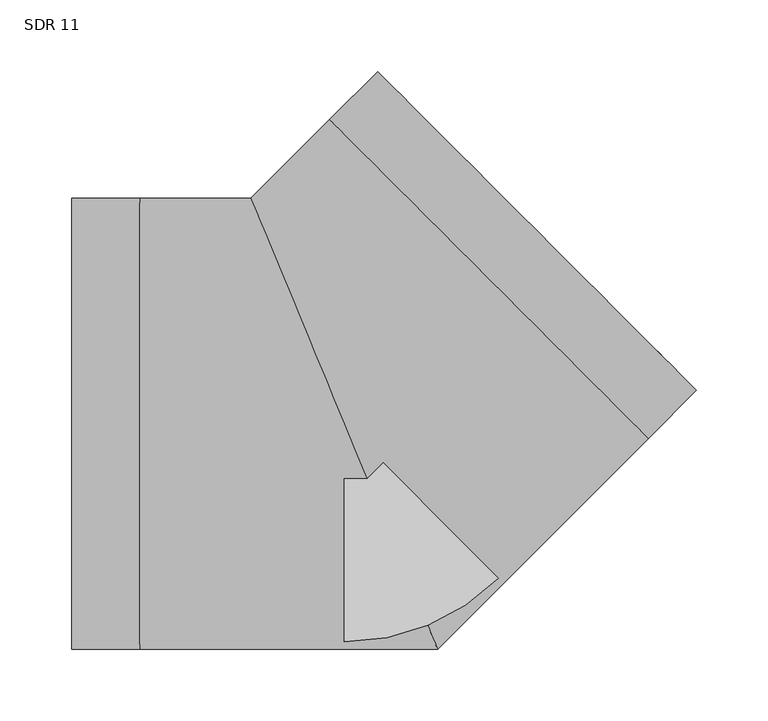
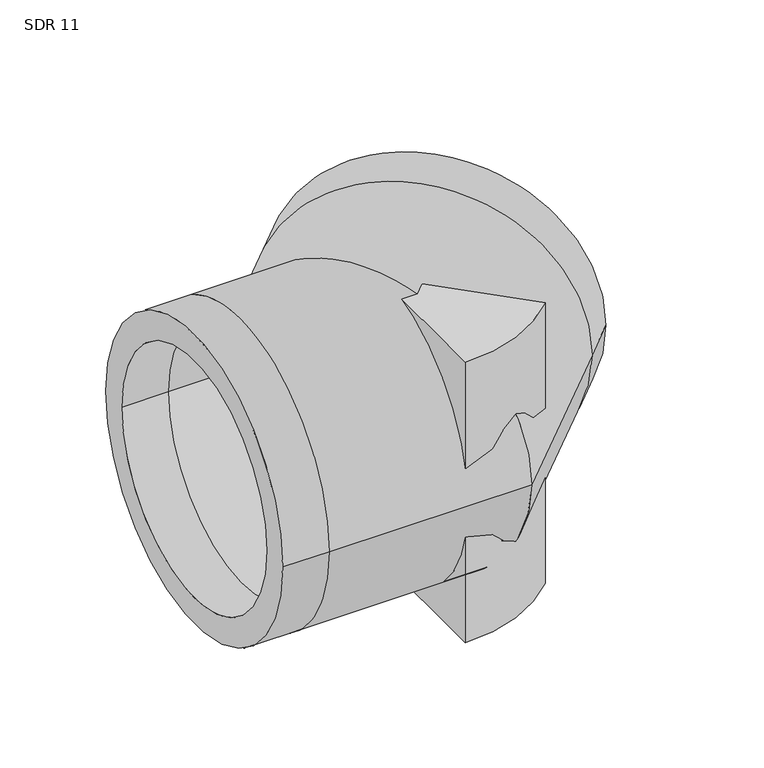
"""IFC4 building model written with IfcOpenShell, lengths in millimetres: pipe fitting geometry, Aquatherm - Elbow Blue BW Segmented : SDR 11."""

from ifc_helpers import new_model, si_unit, point, frame, origin, origin_with_axes, origin_2d, place, context, project, spatial, polyline, circle_curve, ellipse_curve, trimmed, segment, composite_curve, outline, extrude, source, transform, mapped, element, save
from ifc_brep_helpers import plane_surface, cylinder_surface, revolved_surface, advanced_brep


def sdr_11_e0c1b7f1(model_context):
    return source(origin(), model_context, "Body", "SolidModel", [
        extrude(outline(composite_curve([segment(polyline([(0.0, -152.4), (0.0, 0.0), (107.7630735, -107.7630735)]), True, "CONTINUOUS"), segment(trimmed(circle_curve(origin_2d(), 152.4), [point((107.7630735, -107.7630735))], [point((0.0, -152.4))], False, "CARTESIAN"), True, "CONTINUOUS")], self_intersect=False)), frame((0.0, 0.0, -152.4), z_axis=(0.0, 0.0, 1.0), x_axis=(1.0, 0.0, 0.0)), (0.0, 0.0, 1.0), 152.4),
        extrude(outline(composite_curve([segment(trimmed(circle_curve(origin_2d(), 152.4), [point((107.7630735, -107.7630735))], [point((0.0, -152.4))], False, "CARTESIAN"), True, "CONTINUOUS"), segment(polyline([(0.0, -152.4), (0.0, 0.0), (107.7630735, -107.7630735)]), True, "CONTINUOUS")], self_intersect=False)), origin_with_axes(), (0.0, 0.0, 1.0), 152.4),
        advanced_brep(
        [(-190.5, -157.48, 0.0), (-190.5, 157.48, 0.0), (-190.5, -128.8472727, 0.0), (-190.5, 128.8472727, 0.0), (246.0590177, 23.3486659, 0.0), (23.3486659, 246.0590177, 0.0), (225.8126221, 43.5950615, 0.0), (43.5950615, 225.8126221, 0.0), (-142.875, -157.48, 0.0), (-142.875, 157.48, 0.0), (-142.875, -128.8472727, 0.0), (-142.875, 128.8472727, 0.0), (65.2303518, -157.48, 0.0), (-65.2303518, 157.48, 0.0), (53.3702878, -128.8472727, 0.0), (-53.3702878, 128.8472727, 0.0), (212.3830573, -10.3272945, 0.0), (-10.3272945, 212.3830573, 0.0), (192.1366616, 9.9191011, 0.0), (9.9191011, 192.1366616, 0.0)],
        [
            (0, 1, circle_curve(frame((-190.5, 0.0, 0.0), z_axis=(-1.0, 0.0, 0.0), x_axis=(0.0, 1.0, 0.0)), 157.48)),
            (1, 0, circle_curve(frame((-190.5, 0.0, 0.0), z_axis=(-1.0, 0.0, 0.0), x_axis=(0.0, 1.0, 0.0)), 157.48)),
            (2, 3, circle_curve(frame((-190.5, 0.0, 0.0), z_axis=(1.0, 0.0, 0.0), x_axis=(0.0, 1.0, 0.0)), 128.8472727)),
            (3, 2, circle_curve(frame((-190.5, 0.0, 0.0), z_axis=(1.0, 0.0, 0.0), x_axis=(0.0, 1.0, 0.0)), 128.8472727)),
            (4, 5, circle_curve(frame((134.7038418, 134.7038418, 0.0), z_axis=(0.7071067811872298, 0.7071067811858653, 0.0), x_axis=(-0.7071067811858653, 0.7071067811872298, 0.0)), 157.48)),
            (5, 4, circle_curve(frame((134.7038418, 134.7038418, 0.0), z_axis=(0.7071067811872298, 0.7071067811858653, 0.0), x_axis=(-0.7071067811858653, 0.7071067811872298, 0.0)), 157.48)),
            (6, 7, circle_curve(frame((134.7038418, 134.7038418, 0.0), z_axis=(-0.7071067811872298, -0.7071067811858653, 0.0), x_axis=(-0.7071067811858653, 0.7071067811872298, 0.0)), 128.8472727)),
            (7, 6, circle_curve(frame((134.7038418, 134.7038418, 0.0), z_axis=(-0.7071067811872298, -0.7071067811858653, 0.0), x_axis=(-0.7071067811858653, 0.7071067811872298, 0.0)), 128.8472727)),
            (0, 8),
            (8, 9, circle_curve(frame((-142.875, 0.0, 0.0), z_axis=(-1.0, 0.0, 0.0), x_axis=(0.0, 1.0, 0.0)), 157.48)),
            (9, 1),
            (9, 8, circle_curve(frame((-142.875, 0.0, 0.0), z_axis=(-1.0, 0.0, 0.0), x_axis=(0.0, 1.0, 0.0)), 157.48)),
            (2, 10),
            (10, 11, circle_curve(frame((-142.875, 0.0, 0.0), z_axis=(1.0, 0.0, 0.0), x_axis=(0.0, 1.0, 0.0)), 128.8472727)),
            (11, 3),
            (11, 10, circle_curve(frame((-142.875, 0.0, 0.0), z_axis=(1.0, 0.0, 0.0), x_axis=(0.0, 1.0, 0.0)), 128.8472727)),
            (8, 12),
            (12, 13, ellipse_curve(frame((0.0, 0.0, 0.0), z_axis=(-0.9238795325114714, -0.38268343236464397, 0.0), x_axis=(-0.38268343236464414, 0.9238795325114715, 0.0)), 170.4551237, 157.48)),
            (13, 9),
            (13, 12, ellipse_curve(frame((0.0, 0.0, 0.0), z_axis=(-0.9238795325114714, -0.38268343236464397, 0.0), x_axis=(-0.38268343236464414, 0.9238795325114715, 0.0)), 170.4551237, 157.48)),
            (10, 14),
            (14, 15, ellipse_curve(frame((0.0, 0.0, 0.0), z_axis=(0.9238795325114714, 0.38268343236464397, 0.0), x_axis=(0.38268343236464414, -0.9238795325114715, 0.0)), 139.463283, 128.8472727)),
            (15, 11),
            (15, 14, ellipse_curve(frame((0.0, 0.0, 0.0), z_axis=(0.9238795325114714, 0.38268343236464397, 0.0), x_axis=(0.38268343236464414, -0.9238795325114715, 0.0)), 139.463283, 128.8472727)),
            (12, 16),
            (16, 17, circle_curve(frame((101.0278814, 101.0278814, 0.0), z_axis=(-0.7071067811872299, -0.7071067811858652, 0.0), x_axis=(-0.7071067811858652, 0.7071067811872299, 0.0)), 157.48)),
            (17, 13),
            (17, 16, circle_curve(frame((101.0278814, 101.0278814, 0.0), z_axis=(-0.7071067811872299, -0.7071067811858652, 0.0), x_axis=(-0.7071067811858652, 0.7071067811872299, 0.0)), 157.48)),
            (14, 18),
            (18, 19, circle_curve(frame((101.0278814, 101.0278814, 0.0), z_axis=(0.7071067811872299, 0.7071067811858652, 0.0), x_axis=(-0.7071067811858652, 0.7071067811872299, 0.0)), 128.8472727)),
            (19, 15),
            (19, 18, circle_curve(frame((101.0278814, 101.0278814, 0.0), z_axis=(0.7071067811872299, 0.7071067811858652, 0.0), x_axis=(-0.7071067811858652, 0.7071067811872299, 0.0)), 128.8472727)),
            (16, 4),
            (5, 17),
            (18, 6),
            (7, 19),
        ],
        [
            plane_surface(frame((-190.5, 0.0, 0.0), z_axis=(-1.0, 0.0, 0.0), x_axis=(0.0, 0.0, 1.0))),
            plane_surface(frame((134.7038418, 134.7038418, 0.0), z_axis=(0.7071067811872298, 0.7071067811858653, 0.0), x_axis=(0.0, 0.0, 1.0))),
            cylinder_surface(frame((-190.5, 0.0, 0.0), z_axis=(-1.0, 0.0, 0.0), x_axis=(0.0, 1.0, 0.0)), 157.48),
            revolved_surface(polyline([(-142.875, 128.8472727, 0.0), (-190.5, 128.8472727, 0.0)]), (-190.5, 0.0, 0.0), (1.0, 0.0, 0.0)),
            cylinder_surface(frame((-142.875, 0.0, 0.0), z_axis=(-1.0, 0.0, 0.0), x_axis=(0.0, 1.0, 0.0)), 157.48),
            revolved_surface(polyline([(53.370287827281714, 128.8472727, 0.0), (-142.875, 128.8472727, 0.0)]), (-142.875, 0.0, 0.0), (1.0, 0.0, 0.0)),
            cylinder_surface(frame((0.0, 0.0, 0.0), z_axis=(-0.7071067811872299, -0.7071067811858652, 0.0), x_axis=(-0.7071067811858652, 0.7071067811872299, 0.0)), 157.48),
            revolved_surface(polyline([(9.919101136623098, 192.13666166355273, 0.0), (-128.8472727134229, 53.37028781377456, 0.0)]), (0.0, 0.0, 0.0), (0.7071067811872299, 0.7071067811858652, 0.0)),
            cylinder_surface(frame((101.0278814, 101.0278814, 0.0), z_axis=(-0.7071067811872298, -0.7071067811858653, 0.0), x_axis=(-0.7071067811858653, 0.7071067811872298, 0.0)), 157.48),
            revolved_surface(polyline([(43.595061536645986, 225.81262206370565, 0.0), (9.919101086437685, 192.13666161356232, 0.0)]), (101.0278814, 101.0278814, 0.0), (0.7071067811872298, 0.7071067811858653, 0.0)),
        ],
        [
            (0, [[1, 2], [3, 4]]),
            (1, [[5, 6], [7, 8]]),
            (2, [[-1, 9, 10, 11]]),
            (2, [[-2, -11, 12, -9]]),
            (3, [[-3, 13, 14, 15]]),
            (3, [[-4, -15, 16, -13]]),
            (4, [[-10, 17, 18, 19]]),
            (4, [[-12, -19, 20, -17]]),
            (5, [[-14, 21, 22, 23]]),
            (5, [[-16, -23, 24, -21]]),
            (6, [[-18, 25, 26, 27]]),
            (6, [[-20, -27, 28, -25]]),
            (7, [[-22, 29, 30, 31]]),
            (7, [[-24, -31, 32, -29]]),
            (8, [[-26, 33, -6, 34]]),
            (8, [[-28, -34, -5, -33]]),
            (9, [[-30, 35, -8, 36]]),
            (9, [[-32, -36, -7, -35]]),
        ],
    ),
    ])


if __name__ == "__main__":
    model = new_model("IFC4")
    model_context = context("Model", 3, world=origin())
    ifc_project = project(units=[si_unit("LENGTHUNIT", "METRE", prefix="MILLI")], contexts=[model_context])
    site = spatial("IfcSite", under=ifc_project)
    building = spatial("IfcBuilding", under=site)
    placement = place(None, origin())
    sdr_11_shape = sdr_11_e0c1b7f1(model_context)
    element("IfcPipeFitting", 1, ObjectType="Aquatherm - Elbow Blue BW Segmented : SDR 11", at=placement, inside=building, context=model_context, shape_type="MappedRepresentation", body=[
        mapped(sdr_11_shape, transform((0.0, 0.0, 0.0), x_axis=(1.0, 0.0, 0.0), y_axis=(0.0, 1.0, 0.0), z_axis=(0.0, 0.0, 1.0))),
    ])
    save(model, "model.ifc")
